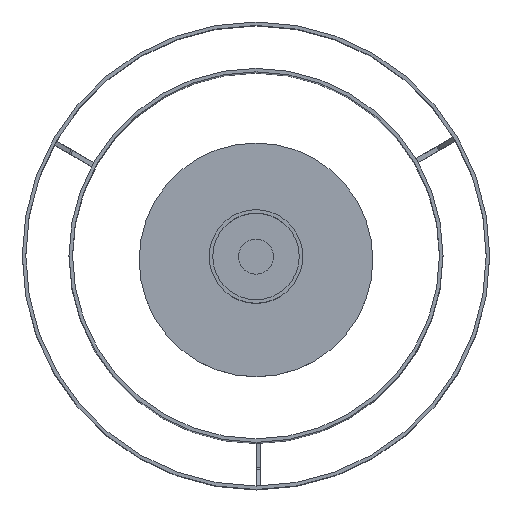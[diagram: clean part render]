
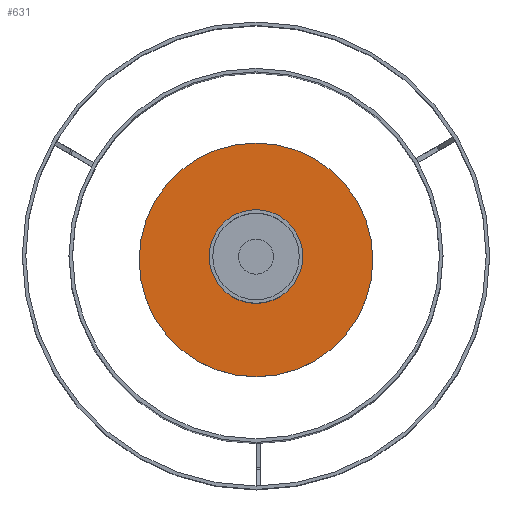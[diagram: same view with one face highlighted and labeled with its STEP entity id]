
A CAD part, top view. The second image highlights one B-rep face of the part: STEP entity #631.
In plain terms, the highlighted planar face has unit normal (0, 0, 1).
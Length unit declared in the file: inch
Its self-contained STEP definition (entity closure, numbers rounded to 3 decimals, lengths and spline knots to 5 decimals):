
#138=FACE_BOUND('',#206,.T.);
#162=FACE_OUTER_BOUND('',#205,.T.);
#205=EDGE_LOOP('',(#422));
#206=EDGE_LOOP('',(#423));
#272=CIRCLE('',#726,50.);
#273=CIRCLE('',#727,5.);
#292=VERTEX_POINT('',#996);
#293=VERTEX_POINT('',#998);
#348=EDGE_CURVE('',#292,#292,#272,.T.);
#349=EDGE_CURVE('',#293,#293,#273,.T.);
#422=ORIENTED_EDGE('',*,*,#348,.T.);
#423=ORIENTED_EDGE('',*,*,#349,.T.);
#576=PLANE('',#725);
#631=ADVANCED_FACE('',(#162,#138),#576,.T.);
#725=AXIS2_PLACEMENT_3D('',#995,#801,#802);
#726=AXIS2_PLACEMENT_3D('',#997,#803,#804);
#727=AXIS2_PLACEMENT_3D('',#999,#805,#806);
#801=DIRECTION('center_axis',(0.,0.,1.));
#802=DIRECTION('ref_axis',(1.,0.,0.));
#803=DIRECTION('center_axis',(0.,0.,1.));
#804=DIRECTION('ref_axis',(1.,0.,0.));
#805=DIRECTION('center_axis',(0.,0.,-1.));
#806=DIRECTION('ref_axis',(1.,0.,0.));
#995=CARTESIAN_POINT('Origin',(0.,0.,-5.));
#996=CARTESIAN_POINT('',(-50.,0.,-5.));
#997=CARTESIAN_POINT('Origin',(0.,0.,-5.));
#998=CARTESIAN_POINT('',(-5.,0.,-5.));
#999=CARTESIAN_POINT('Origin',(0.,0.,-5.));
